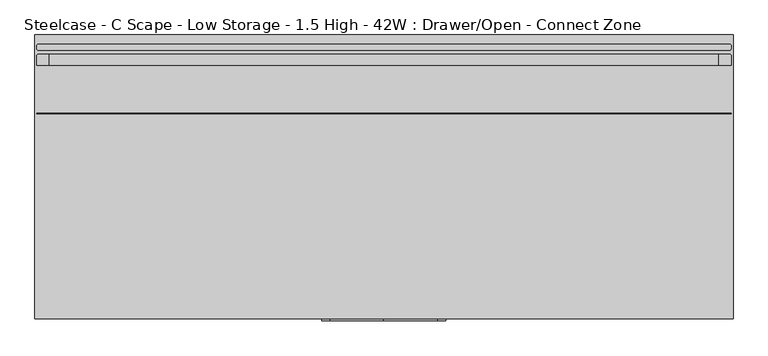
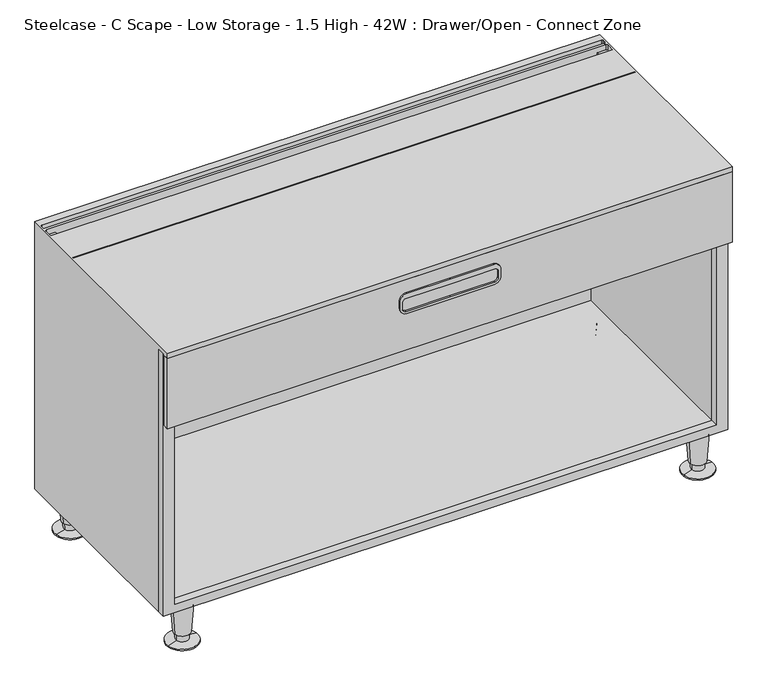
"""IFC4 building model written with IfcOpenShell, lengths in millimetres: furniture geometry, Steelcase - C Scape - Low Storage - 1.5 High - 42W : Drawer/Open - Connect Zone."""

from ifc_helpers import new_model, si_unit, point, frame, frame_2d, origin, place, context, project, spatial, polyline, circle_curve, trimmed, segment, composite_curve, outline, extrude, source, transform, mapped, element, save
from ifc_brep_helpers import plane_surface, cylinder_surface, revolved_surface, advanced_brep


def steelcase_c_scape_low_storage_1_5_high_42w_drawer_open_a7f49f14(model_context):
    return source(origin(), model_context, "Body", "SolidModel", [
        extrude(outline(polyline([(599.44, 532.2710512), (599.44, 0.0), (76.1999955, 0.0), (76.1999955, 1065.53), (599.44, 1065.53), (599.44, 532.2710512)]), holes=[polyline([(92.7100024, 1043.5617285), (92.7100024, 21.3382324), (582.93, 21.3382324), (582.93, 1043.5617285), (92.7100024, 1043.5617285)])]), frame((0.0, -419.3484735, 0.0), z_axis=(0.0, 1.0, 0.0), x_axis=(0.0, 0.0, 1.0)), (0.0, 0.0, 1.0), 14.9862946),
        extrude(outline(composite_curve([segment(trimmed(circle_curve(frame_2d((560.7050073, 450.2147442)), 12.7), [point((573.4050073, 450.2147442))], [point((560.7050073, 437.5147442))], False, "CARTESIAN"), True, "CONTINUOUS"), segment(polyline([(560.7050073, 437.5147442), (546.1000363, 437.5147442)]), True, "CONTINUOUS"), segment(trimmed(circle_curve(frame_2d((546.1000363, 450.2147442)), 12.7), [point((546.1000363, 437.5147442))], [point((533.4000363, 450.2147442))], False, "CARTESIAN"), True, "CONTINUOUS"), segment(polyline([(533.4000363, 450.2147442), (533.4000363, 532.4475), (533.4000363, 614.6802558)]), True, "CONTINUOUS"), segment(trimmed(circle_curve(frame_2d((546.1000363, 614.6802558)), 12.7), [point((533.4000363, 614.6802558))], [point((546.1000363, 627.3802558))], False, "CARTESIAN"), True, "CONTINUOUS"), segment(polyline([(546.1000363, 627.3802558), (560.7050073, 627.3802558)]), True, "CONTINUOUS"), segment(trimmed(circle_curve(frame_2d((560.7050073, 614.6802558)), 12.7), [point((560.7050073, 627.3802558))], [point((573.4050073, 614.6802558))], False, "CARTESIAN"), True, "CONTINUOUS"), segment(polyline([(573.4050073, 614.6802558), (573.4050073, 532.4475), (573.4050073, 450.2147442)]), True, "CONTINUOUS")], self_intersect=False), holes=[composite_curve([segment(trimmed(circle_curve(frame_2d((557.2760257, 448.6923565)), 6.35), [point((557.2760257, 442.3423565))], [point((563.6260257, 448.6923565))], True, "CARTESIAN"), True, "CONTINUOUS"), segment(polyline([(563.6260257, 448.6923565), (563.6260257, 532.4475), (563.6260257, 616.2026435)]), True, "CONTINUOUS"), segment(trimmed(circle_curve(frame_2d((557.2760257, 616.2026435)), 6.35), [point((563.6260257, 616.2026435))], [point((557.2760257, 622.5526435))], True, "CARTESIAN"), True, "CONTINUOUS"), segment(polyline([(557.2760257, 622.5526435), (544.5760136, 622.5526435)]), True, "CONTINUOUS"), segment(trimmed(circle_curve(frame_2d((544.5760136, 616.2026435)), 6.35), [point((544.5760136, 622.5526435))], [point((538.2260136, 616.2026435))], True, "CARTESIAN"), True, "CONTINUOUS"), segment(polyline([(538.2260136, 616.2026435), (538.2260136, 532.4475), (538.2260136, 448.6923565)]), True, "CONTINUOUS"), segment(trimmed(circle_curve(frame_2d((544.5760136, 448.6923565)), 6.35), [point((538.2260136, 448.6923565))], [point((544.5760136, 442.3423565))], True, "CARTESIAN"), True, "CONTINUOUS"), segment(polyline([(544.5760136, 442.3423565), (557.2760257, 442.3423565)]), True, "CONTINUOUS")], self_intersect=False)]), frame((0.0, -436.118, 0.0), z_axis=(0.0, 1.0, 0.0), x_axis=(0.0, 0.0, 1.0)), (0.0, 0.0, 1.0), 3.048),
        advanced_brep(
        [(1038.2598695, -31.5218435, 76.2), (1000.5981305, -37.2840847, 76.2), (1019.429, -34.4029641, 76.2), (1034.3095214, -32.1262463, 19.05), (1004.5484786, -36.6796819, 19.05), (1031.8799345, -32.4979728, 19.05), (1006.9780655, -36.3079555, 19.05), (1031.191165, -32.6033544, 5.7545598), (1007.666835, -36.2025738, 5.7545598), (1048.5400485, -29.9489775, 2.5119506), (990.3179515, -38.8569507, 2.5119506), (1048.5400485, -29.9489775, 0.0), (990.3179515, -38.8569507, 0.0), (1019.429, -34.4029641, 0.0)],
        [
            (0, 1, circle_curve(frame((1019.429, -34.4029641, 76.2), z_axis=(0.0, 0.0, 1.0), x_axis=(0.0, -1.0, 0.0)), 19.05)),
            (1, 2),
            (2, 0),
            (1, 0, circle_curve(frame((1019.429, -34.4029641, 76.2), z_axis=(0.0, 0.0, 1.0), x_axis=(0.0, -1.0, 0.0)), 19.05)),
            (3, 4, circle_curve(frame((1019.429, -34.4029641, 19.05), z_axis=(0.0, 0.0, 1.0), x_axis=(0.0, -1.0, 0.0)), 15.0536827)),
            (4, 1),
            (0, 3),
            (4, 3, circle_curve(frame((1019.429, -34.4029641, 19.05), z_axis=(0.0, 0.0, 1.0), x_axis=(0.0, -1.0, 0.0)), 15.0536827)),
            (5, 6, circle_curve(frame((1019.429, -34.4029641, 19.05), z_axis=(0.0, 0.0, 1.0), x_axis=(0.0, -1.0, 0.0)), 12.5958232)),
            (6, 4),
            (3, 5),
            (6, 5, circle_curve(frame((1019.429, -34.4029641, 19.05), z_axis=(0.0, 0.0, 1.0), x_axis=(0.0, -1.0, 0.0)), 12.5958232)),
            (7, 8, circle_curve(frame((1019.429, -34.4029641, 5.7545598), z_axis=(0.0, 0.0, 1.0), x_axis=(0.0, -1.0, 0.0)), 11.8990387)),
            (8, 6),
            (5, 7),
            (8, 7, circle_curve(frame((1019.429, -34.4029641, 5.7545598), z_axis=(0.0, 0.0, 1.0), x_axis=(0.0, -1.0, 0.0)), 11.8990387)),
            (9, 10, circle_curve(frame((1019.429, -34.4029641, 2.5119506), z_axis=(0.0, 0.0, 1.0), x_axis=(0.0, -1.0, 0.0)), 29.4498071)),
            (10, 8),
            (7, 9),
            (10, 9, circle_curve(frame((1019.429, -34.4029641, 2.5119506), z_axis=(0.0, 0.0, 1.0), x_axis=(0.0, -1.0, 0.0)), 29.4498071)),
            (11, 12, circle_curve(frame((1019.429, -34.4029641, 0.0), z_axis=(0.0, 0.0, 1.0), x_axis=(0.0, -1.0, 0.0)), 29.4498071)),
            (12, 10),
            (9, 11),
            (12, 11, circle_curve(frame((1019.429, -34.4029641, 0.0), z_axis=(0.0, 0.0, 1.0), x_axis=(0.0, -1.0, 0.0)), 29.4498071)),
            (13, 12),
            (11, 13),
        ],
        [
            plane_surface(frame((1019.429, -34.4029641, 76.2), z_axis=(0.0, 0.0, 1.0), x_axis=(0.0, -1.0, 0.0))),
            revolved_surface(polyline([(1019.429, -53.4529641, 76.2), (1019.429, -49.4566468, 19.05)]), (1019.429, -34.4029641, 25.4), (0.0, 0.0, -1.0)),
            plane_surface(frame((1019.429, -34.4029641, 19.05), z_axis=(0.0, 0.0, -1.0), x_axis=(0.0, -1.0, 0.0))),
            revolved_surface(polyline([(1019.429, -46.9987873, 19.05), (1019.429, -46.3020028, 5.7545598)]), (1019.429, -34.4029641, 25.4), (0.0, 0.0, -1.0)),
            revolved_surface(polyline([(1019.429, -46.3020028, 5.7545598), (1019.429, -63.8527712, 2.5119506)]), (1019.429, -34.4029641, 25.4), (0.0, 0.0, -1.0)),
            cylinder_surface(frame((1019.429, -34.4029641, 25.4), z_axis=(0.0, 0.0, -1.0), x_axis=(0.0, -1.0, 0.0)), 29.4498071),
            plane_surface(frame((1019.429, -34.4029641, 0.0), z_axis=(0.0, 0.0, -1.0), x_axis=(0.0, -1.0, 0.0))),
        ],
        [
            (0, [[1, 2, 3]]),
            (0, [[4, -3, -2]]),
            (1, [[5, 6, -1, 7]]),
            (1, [[8, -7, -4, -6]]),
            (2, [[9, 10, -5, 11]]),
            (2, [[12, -11, -8, -10]]),
            (3, [[13, 14, -9, 15]]),
            (3, [[16, -15, -12, -14]]),
            (4, [[17, 18, -13, 19]]),
            (4, [[20, -19, -16, -18]]),
            (5, [[21, 22, -17, 23]]),
            (5, [[24, -23, -20, -22]]),
            (6, [[25, -21, 26]]),
            (6, [[-26, -24, -25]]),
        ],
    ),
        advanced_brep(
        [(1038.2598695, -397.1702762, 76.2), (1000.5981305, -402.9325174, 76.2), (1019.429, -400.0513968, 76.2), (1034.3095214, -397.774679, 19.05), (1004.5484786, -402.3281146, 19.05), (1031.8799345, -398.1464055, 19.05), (1006.9780655, -401.9563882, 19.05), (1031.191165, -398.2517871, 5.7545598), (1007.666835, -401.8510065, 5.7545598), (1048.5400485, -395.5974102, 2.5119506), (990.3179515, -404.5053834, 2.5119506), (1048.5400485, -395.5974102, 0.0), (990.3179515, -404.5053834, 0.0), (1019.429, -400.0513968, 0.0)],
        [
            (0, 1, circle_curve(frame((1019.429, -400.0513968, 76.2), z_axis=(0.0, 0.0, 1.0), x_axis=(0.0, -1.0, 0.0)), 19.05)),
            (1, 2),
            (2, 0),
            (1, 0, circle_curve(frame((1019.429, -400.0513968, 76.2), z_axis=(0.0, 0.0, 1.0), x_axis=(0.0, -1.0, 0.0)), 19.05)),
            (3, 4, circle_curve(frame((1019.429, -400.0513968, 19.05), z_axis=(0.0, 0.0, 1.0), x_axis=(0.0, -1.0, 0.0)), 15.0536827)),
            (4, 1),
            (0, 3),
            (4, 3, circle_curve(frame((1019.429, -400.0513968, 19.05), z_axis=(0.0, 0.0, 1.0), x_axis=(0.0, -1.0, 0.0)), 15.0536827)),
            (5, 6, circle_curve(frame((1019.429, -400.0513968, 19.05), z_axis=(0.0, 0.0, 1.0), x_axis=(0.0, -1.0, 0.0)), 12.5958232)),
            (6, 4),
            (3, 5),
            (6, 5, circle_curve(frame((1019.429, -400.0513968, 19.05), z_axis=(0.0, 0.0, 1.0), x_axis=(0.0, -1.0, 0.0)), 12.5958232)),
            (7, 8, circle_curve(frame((1019.429, -400.0513968, 5.7545598), z_axis=(0.0, 0.0, 1.0), x_axis=(0.0, -1.0, 0.0)), 11.8990387)),
            (8, 6),
            (5, 7),
            (8, 7, circle_curve(frame((1019.429, -400.0513968, 5.7545598), z_axis=(0.0, 0.0, 1.0), x_axis=(0.0, -1.0, 0.0)), 11.8990387)),
            (9, 10, circle_curve(frame((1019.429, -400.0513968, 2.5119506), z_axis=(0.0, 0.0, 1.0), x_axis=(0.0, -1.0, 0.0)), 29.4498071)),
            (10, 8),
            (7, 9),
            (10, 9, circle_curve(frame((1019.429, -400.0513968, 2.5119506), z_axis=(0.0, 0.0, 1.0), x_axis=(0.0, -1.0, 0.0)), 29.4498071)),
            (11, 12, circle_curve(frame((1019.429, -400.0513968, 0.0), z_axis=(0.0, 0.0, 1.0), x_axis=(0.0, -1.0, 0.0)), 29.4498071)),
            (12, 10),
            (9, 11),
            (12, 11, circle_curve(frame((1019.429, -400.0513968, 0.0), z_axis=(0.0, 0.0, 1.0), x_axis=(0.0, -1.0, 0.0)), 29.4498071)),
            (13, 12),
            (11, 13),
        ],
        [
            plane_surface(frame((1019.429, -400.0513968, 76.2), z_axis=(0.0, 0.0, 1.0), x_axis=(0.0, -1.0, 0.0))),
            revolved_surface(polyline([(1019.429, -419.1013968, 76.2), (1019.429, -415.1050795, 19.05)]), (1019.429, -400.0513968, 25.4), (0.0, 0.0, -1.0)),
            plane_surface(frame((1019.429, -400.0513968, 19.05), z_axis=(0.0, 0.0, -1.0), x_axis=(0.0, -1.0, 0.0))),
            revolved_surface(polyline([(1019.429, -412.64722, 19.05), (1019.429, -411.9504355, 5.7545598)]), (1019.429, -400.0513968, 25.4), (0.0, 0.0, -1.0)),
            revolved_surface(polyline([(1019.429, -411.9504355, 5.7545598), (1019.429, -429.5012039, 2.5119506)]), (1019.429, -400.0513968, 25.4), (0.0, 0.0, -1.0)),
            cylinder_surface(frame((1019.429, -400.0513968, 25.4), z_axis=(0.0, 0.0, -1.0), x_axis=(0.0, -1.0, 0.0)), 29.4498071),
            plane_surface(frame((1019.429, -400.0513968, 0.0), z_axis=(0.0, 0.0, -1.0), x_axis=(0.0, -1.0, 0.0))),
        ],
        [
            (0, [[1, 2, 3]]),
            (0, [[4, -3, -2]]),
            (1, [[5, 6, -1, 7]]),
            (1, [[8, -7, -4, -6]]),
            (2, [[9, 10, -5, 11]]),
            (2, [[12, -11, -8, -10]]),
            (3, [[13, 14, -9, 15]]),
            (3, [[16, -15, -12, -14]]),
            (4, [[17, 18, -13, 19]]),
            (4, [[20, -19, -16, -18]]),
            (5, [[21, 22, -17, 23]]),
            (5, [[24, -23, -20, -22]]),
            (6, [[25, -21, 26]]),
            (6, [[-26, -24, -25]]),
        ],
    ),
        advanced_brep(
        [(65.5422821, -397.1702762, 76.2), (27.8805432, -402.9325174, 76.2), (46.7114126, -400.0513968, 76.2), (61.5919341, -397.774679, 19.05), (31.8308912, -402.3281146, 19.05), (59.1623471, -398.1464055, 19.05), (34.2604781, -401.9563882, 19.05), (58.4735776, -398.2517871, 5.7545598), (34.9492476, -401.8510065, 5.7545598), (75.8224611, -395.5974102, 2.5119506), (17.6003641, -404.5053834, 2.5119506), (75.8224611, -395.5974102, 0.0), (17.6003641, -404.5053834, 0.0), (46.7114126, -400.0513968, 0.0)],
        [
            (0, 1, circle_curve(frame((46.7114126, -400.0513968, 76.2), z_axis=(0.0, 0.0, 1.0), x_axis=(0.0, -1.0, 0.0)), 19.05)),
            (1, 2),
            (2, 0),
            (1, 0, circle_curve(frame((46.7114126, -400.0513968, 76.2), z_axis=(0.0, 0.0, 1.0), x_axis=(0.0, -1.0, 0.0)), 19.05)),
            (3, 4, circle_curve(frame((46.7114126, -400.0513968, 19.05), z_axis=(0.0, 0.0, 1.0), x_axis=(0.0, -1.0, 0.0)), 15.0536827)),
            (4, 1),
            (0, 3),
            (4, 3, circle_curve(frame((46.7114126, -400.0513968, 19.05), z_axis=(0.0, 0.0, 1.0), x_axis=(0.0, -1.0, 0.0)), 15.0536827)),
            (5, 6, circle_curve(frame((46.7114126, -400.0513968, 19.05), z_axis=(0.0, 0.0, 1.0), x_axis=(0.0, -1.0, 0.0)), 12.5958232)),
            (6, 4),
            (3, 5),
            (6, 5, circle_curve(frame((46.7114126, -400.0513968, 19.05), z_axis=(0.0, 0.0, 1.0), x_axis=(0.0, -1.0, 0.0)), 12.5958232)),
            (7, 8, circle_curve(frame((46.7114126, -400.0513968, 5.7545598), z_axis=(0.0, 0.0, 1.0), x_axis=(0.0, -1.0, 0.0)), 11.8990387)),
            (8, 6),
            (5, 7),
            (8, 7, circle_curve(frame((46.7114126, -400.0513968, 5.7545598), z_axis=(0.0, 0.0, 1.0), x_axis=(0.0, -1.0, 0.0)), 11.8990387)),
            (9, 10, circle_curve(frame((46.7114126, -400.0513968, 2.5119506), z_axis=(0.0, 0.0, 1.0), x_axis=(0.0, -1.0, 0.0)), 29.4498071)),
            (10, 8),
            (7, 9),
            (10, 9, circle_curve(frame((46.7114126, -400.0513968, 2.5119506), z_axis=(0.0, 0.0, 1.0), x_axis=(0.0, -1.0, 0.0)), 29.4498071)),
            (11, 12, circle_curve(frame((46.7114126, -400.0513968, 0.0), z_axis=(0.0, 0.0, 1.0), x_axis=(0.0, -1.0, 0.0)), 29.4498071)),
            (12, 10),
            (9, 11),
            (12, 11, circle_curve(frame((46.7114126, -400.0513968, 0.0), z_axis=(0.0, 0.0, 1.0), x_axis=(0.0, -1.0, 0.0)), 29.4498071)),
            (13, 12),
            (11, 13),
        ],
        [
            plane_surface(frame((46.7114126, -400.0513968, 76.2), z_axis=(0.0, 0.0, 1.0), x_axis=(0.0, -1.0, 0.0))),
            revolved_surface(polyline([(46.7114126, -419.1013968, 76.2), (46.7114126, -415.1050795, 19.05)]), (46.7114126, -400.0513968, 25.4), (0.0, 0.0, -1.0)),
            plane_surface(frame((46.7114126, -400.0513968, 19.05), z_axis=(0.0, 0.0, -1.0), x_axis=(0.0, -1.0, 0.0))),
            revolved_surface(polyline([(46.7114126, -412.64722, 19.05), (46.7114126, -411.9504355, 5.7545598)]), (46.7114126, -400.0513968, 25.4), (0.0, 0.0, -1.0)),
            revolved_surface(polyline([(46.7114126, -411.9504355, 5.7545598), (46.7114126, -429.5012039, 2.5119506)]), (46.7114126, -400.0513968, 25.4), (0.0, 0.0, -1.0)),
            cylinder_surface(frame((46.7114126, -400.0513968, 25.4), z_axis=(0.0, 0.0, -1.0), x_axis=(0.0, -1.0, 0.0)), 29.4498071),
            plane_surface(frame((46.7114126, -400.0513968, 0.0), z_axis=(0.0, 0.0, -1.0), x_axis=(0.0, -1.0, 0.0))),
        ],
        [
            (0, [[1, 2, 3]]),
            (0, [[4, -3, -2]]),
            (1, [[5, 6, -1, 7]]),
            (1, [[8, -7, -4, -6]]),
            (2, [[9, 10, -5, 11]]),
            (2, [[12, -11, -8, -10]]),
            (3, [[13, 14, -9, 15]]),
            (3, [[16, -15, -12, -14]]),
            (4, [[17, 18, -13, 19]]),
            (4, [[20, -19, -16, -18]]),
            (5, [[21, 22, -17, 23]]),
            (5, [[24, -23, -20, -22]]),
            (6, [[25, -21, 26]]),
            (6, [[-26, -24, -25]]),
        ],
    ),
        advanced_brep(
        [(65.5422821, -31.5218435, 76.2), (27.8805432, -37.2840847, 76.2), (46.7114126, -34.4029641, 76.2), (61.5919341, -32.1262463, 19.05), (31.8308912, -36.6796819, 19.05), (59.1623471, -32.4979728, 19.05), (34.2604781, -36.3079555, 19.05), (58.4735776, -32.6033544, 5.7545598), (34.9492476, -36.2025738, 5.7545598), (75.8224611, -29.9489775, 2.5119506), (17.6003641, -38.8569507, 2.5119506), (75.8224611, -29.9489775, 0.0), (17.6003641, -38.8569507, 0.0), (46.7114126, -34.4029641, 0.0)],
        [
            (0, 1, circle_curve(frame((46.7114126, -34.4029641, 76.2), z_axis=(0.0, 0.0, 1.0), x_axis=(0.0, -1.0, 0.0)), 19.05)),
            (1, 2),
            (2, 0),
            (1, 0, circle_curve(frame((46.7114126, -34.4029641, 76.2), z_axis=(0.0, 0.0, 1.0), x_axis=(0.0, -1.0, 0.0)), 19.05)),
            (3, 4, circle_curve(frame((46.7114126, -34.4029641, 19.05), z_axis=(0.0, 0.0, 1.0), x_axis=(0.0, -1.0, 0.0)), 15.0536827)),
            (4, 1),
            (0, 3),
            (4, 3, circle_curve(frame((46.7114126, -34.4029641, 19.05), z_axis=(0.0, 0.0, 1.0), x_axis=(0.0, -1.0, 0.0)), 15.0536827)),
            (5, 6, circle_curve(frame((46.7114126, -34.4029641, 19.05), z_axis=(0.0, 0.0, 1.0), x_axis=(0.0, -1.0, 0.0)), 12.5958232)),
            (6, 4),
            (3, 5),
            (6, 5, circle_curve(frame((46.7114126, -34.4029641, 19.05), z_axis=(0.0, 0.0, 1.0), x_axis=(0.0, -1.0, 0.0)), 12.5958232)),
            (7, 8, circle_curve(frame((46.7114126, -34.4029641, 5.7545598), z_axis=(0.0, 0.0, 1.0), x_axis=(0.0, -1.0, 0.0)), 11.8990387)),
            (8, 6),
            (5, 7),
            (8, 7, circle_curve(frame((46.7114126, -34.4029641, 5.7545598), z_axis=(0.0, 0.0, 1.0), x_axis=(0.0, -1.0, 0.0)), 11.8990387)),
            (9, 10, circle_curve(frame((46.7114126, -34.4029641, 2.5119506), z_axis=(0.0, 0.0, 1.0), x_axis=(0.0, -1.0, 0.0)), 29.4498071)),
            (10, 8),
            (7, 9),
            (10, 9, circle_curve(frame((46.7114126, -34.4029641, 2.5119506), z_axis=(0.0, 0.0, 1.0), x_axis=(0.0, -1.0, 0.0)), 29.4498071)),
            (11, 12, circle_curve(frame((46.7114126, -34.4029641, 0.0), z_axis=(0.0, 0.0, 1.0), x_axis=(0.0, -1.0, 0.0)), 29.4498071)),
            (12, 10),
            (9, 11),
            (12, 11, circle_curve(frame((46.7114126, -34.4029641, 0.0), z_axis=(0.0, 0.0, 1.0), x_axis=(0.0, -1.0, 0.0)), 29.4498071)),
            (13, 12),
            (11, 13),
        ],
        [
            plane_surface(frame((46.7114126, -34.4029641, 76.2), z_axis=(0.0, 0.0, 1.0), x_axis=(0.0, -1.0, 0.0))),
            revolved_surface(polyline([(46.7114126, -53.4529641, 76.2), (46.7114126, -49.4566468, 19.05)]), (46.7114126, -34.4029641, 25.4), (0.0, 0.0, -1.0)),
            plane_surface(frame((46.7114126, -34.4029641, 19.05), z_axis=(0.0, 0.0, -1.0), x_axis=(0.0, -1.0, 0.0))),
            revolved_surface(polyline([(46.7114126, -46.9987873, 19.05), (46.7114126, -46.3020028, 5.7545598)]), (46.7114126, -34.4029641, 25.4), (0.0, 0.0, -1.0)),
            revolved_surface(polyline([(46.7114126, -46.3020028, 5.7545598), (46.7114126, -63.8527712, 2.5119506)]), (46.7114126, -34.4029641, 25.4), (0.0, 0.0, -1.0)),
            cylinder_surface(frame((46.7114126, -34.4029641, 25.4), z_axis=(0.0, 0.0, -1.0), x_axis=(0.0, -1.0, 0.0)), 29.4498071),
            plane_surface(frame((46.7114126, -34.4029641, 0.0), z_axis=(0.0, 0.0, -1.0), x_axis=(0.0, -1.0, 0.0))),
        ],
        [
            (0, [[1, 2, 3]]),
            (0, [[4, -3, -2]]),
            (1, [[5, 6, -1, 7]]),
            (1, [[8, -7, -4, -6]]),
            (2, [[9, 10, -5, 11]]),
            (2, [[12, -11, -8, -10]]),
            (3, [[13, 14, -9, 15]]),
            (3, [[16, -15, -12, -14]]),
            (4, [[17, 18, -13, 19]]),
            (4, [[20, -19, -16, -18]]),
            (5, [[21, 22, -17, 23]]),
            (5, [[24, -23, -20, -22]]),
            (6, [[25, -21, 26]]),
            (6, [[-26, -24, -25]]),
        ],
    ),
        advanced_brep(
        [(1062.7272317, -120.6444193, 609.6), (1062.7272317, -119.3775195, 609.6), (1062.7272317, -119.3775195, 599.44), (1062.7272317, -120.6444193, 599.44), (1062.7272317, -46.4703418, 609.6), (1062.7272317, -32.274699, 609.6), (1062.7272317, -32.274699, 599.44), (1062.7272317, -46.4703418, 599.44), (1062.7272317, -20.3138654, 609.6), (1062.7272317, -17.0388453, 609.6), (1062.7272317, -17.0388453, 599.44), (1062.7272317, -20.3138654, 599.44), (1065.53, 0.0055807, 609.6), (1065.53, -433.07, 609.6), (1065.53, -433.07, 599.44), (1065.53, -404.362179, 599.44), (1065.53, -404.362179, 76.2), (1065.53, 0.0055807, 76.2), (0.0, -433.07, 609.6), (-0.012551, 0.0055807, 609.6), (1060.0308823, -29.5783496, 609.6), (2.7826272, -46.4703418, 609.6), (2.7826272, -32.0458511, 609.6), (5.2501287, -29.5783496, 609.6), (1059.7507358, -23.2903613, 609.6), (5.5670648, -23.2903613, 609.6), (2.7826272, -20.5059237, 609.6), (2.7826272, -17.0388453, 609.6), (5.4794022, -14.3420703, 609.6), (1060.0304567, -14.3420703, 609.6), (2.7826272, -119.3775195, 609.6), (2.7826272, -120.6444193, 609.6), (0.0, 0.0055807, 76.2), (648.0775189, 0.0055807, 466.2677968), (416.8174811, 0.0055807, 466.2677968), (416.8174811, 0.0055807, 432.6382043), (532.4475, 0.0055807, 432.6382043), (648.0775189, 0.0055807, 432.6382043), (648.0775189, -9.5194193, 466.2677968), (416.8174811, -9.5194193, 466.2677968), (648.0775189, -9.5194193, 435.8005068), (416.8174811, -9.5194193, 435.8005068), (5.2501287, -29.5783496, 599.44), (21.3382324, -29.5783496, 599.44), (21.3382324, -29.5783496, 458.7875121), (1043.5617285, -29.5783496, 458.7875121), (1043.5617285, -29.5783496, 599.44), (1060.0308823, -29.5783496, 599.44), (1043.5617285, -119.3775195, 599.44), (21.3382324, -119.3775195, 599.44), (21.3382324, -46.4703418, 599.44), (1043.5617285, -46.4703418, 599.44), (1059.7507358, -23.2903613, 599.44), (5.5670648, -23.2903613, 599.44), (2.7826272, -20.5059237, 599.44), (2.7826272, -32.0458511, 599.44), (2.7826272, -46.4703418, 599.44), (2.7826272, -119.3775195, 599.44), (5.4794022, -14.3420703, 599.44), (1060.0304567, -14.3420703, 599.44), (2.7826272, -17.0388453, 599.44), (21.3382324, -120.6444193, 599.44), (2.7826272, -120.6444193, 599.44), (1043.5617285, -120.6444193, 599.44), (21.3382324, -404.362179, 92.7100024), (1043.5617285, -404.362179, 92.7100024), (1043.5617285, -9.5194193, 92.7100024), (21.3382324, -9.5194193, 92.7100024), (0.0, -404.362179, 76.2), (21.3382324, -404.362179, 458.7875121), (21.3382324, -404.362179, 599.44), (0.0, -404.362179, 599.44), (1043.5617285, -404.362179, 599.44), (1043.5617285, -404.362179, 458.7875121), (21.3382324, -404.362179, 435.8005068), (1043.5617285, -404.362179, 435.8005068), (0.0, -433.07, 599.44), (21.3382324, -126.9863574, 599.44), (1043.5617285, -126.9863574, 599.44), (21.3382324, -126.9863574, 458.7875121), (1043.5617285, -126.9863574, 458.7875121), (1043.5617285, -120.6444193, 458.7875121), (21.3382324, -120.6444193, 458.7875121), (21.3382324, -9.5194193, 435.8005068), (1043.5617285, -9.5194193, 435.8005068), (648.0775189, -9.5194193, 432.6382043), (532.4475, -9.5194193, 432.6382043), (416.8174811, -9.5194193, 432.6382043)],
        [
            (0, 1),
            (1, 2),
            (2, 3),
            (3, 0),
            (4, 5),
            (5, 6),
            (6, 7),
            (7, 4),
            (8, 9),
            (9, 10),
            (10, 11),
            (11, 8),
            (12, 13),
            (13, 14),
            (14, 15),
            (15, 16),
            (16, 17),
            (17, 12),
            (18, 13),
            (12, 19),
            (19, 18),
            (20, 5, circle_curve(frame((1060.0308823, -32.274699, 609.6), z_axis=(0.0, 0.0, -1.0), x_axis=(1.0, 0.0, 0.0)), 2.6963494)),
            (4, 21),
            (21, 22),
            (22, 23, circle_curve(frame((5.2501287, -32.0458511, 609.6), z_axis=(0.0, 0.0, -1.0), x_axis=(1.0, 0.0, 0.0)), 2.4675015)),
            (23, 20),
            (8, 24, circle_curve(frame((1059.7507358, -20.3138654, 609.6), z_axis=(0.0, 0.0, -1.0), x_axis=(1.0, 0.0, 0.0)), 2.9764959)),
            (24, 25),
            (25, 26, circle_curve(frame((5.5670648, -20.5059237, 609.6), z_axis=(0.0, 0.0, -1.0), x_axis=(1.0, 0.0, 0.0)), 2.7844376)),
            (26, 27),
            (27, 28, circle_curve(frame((5.4794022, -17.0388453, 609.6), z_axis=(0.0, 0.0, -1.0), x_axis=(1.0, 0.0, 0.0)), 2.696775)),
            (28, 29),
            (29, 9, circle_curve(frame((1060.0304567, -17.0388453, 609.6), z_axis=(0.0, 0.0, -1.0), x_axis=(1.0, 0.0, 0.0)), 2.696775)),
            (30, 1),
            (0, 31),
            (31, 30),
            (17, 32),
            (32, 19),
            (33, 34),
            (34, 35),
            (35, 36),
            (36, 37),
            (37, 33),
            (33, 38),
            (38, 39),
            (39, 34),
            (38, 40),
            (40, 41),
            (41, 39),
            (23, 42),
            (42, 43),
            (43, 44),
            (44, 45),
            (45, 46),
            (46, 47),
            (47, 20),
            (48, 49),
            (49, 50),
            (50, 51),
            (51, 48),
            (47, 6, circle_curve(frame((1060.0308823, -32.274699, 599.44), z_axis=(0.0, 0.0, -1.0), x_axis=(1.0, 0.0, 0.0)), 2.6963494)),
            (11, 52, circle_curve(frame((1059.7507358, -20.3138654, 599.44), z_axis=(0.0, 0.0, -1.0), x_axis=(1.0, 0.0, 0.0)), 2.9764959)),
            (52, 24),
            (52, 53),
            (53, 25),
            (53, 54, circle_curve(frame((5.5670648, -20.5059237, 599.44), z_axis=(0.0, 0.0, -1.0), x_axis=(1.0, 0.0, 0.0)), 2.7844376)),
            (54, 26),
            (22, 55),
            (55, 42, circle_curve(frame((5.2501287, -32.0458511, 599.44), z_axis=(0.0, 0.0, -1.0), x_axis=(1.0, 0.0, 0.0)), 2.4675015)),
            (7, 51),
            (50, 56),
            (56, 21),
            (30, 57),
            (57, 49),
            (48, 2),
            (28, 58),
            (58, 59),
            (59, 29),
            (59, 10, circle_curve(frame((1060.0304567, -17.0388453, 599.44), z_axis=(0.0, 0.0, -1.0), x_axis=(1.0, 0.0, 0.0)), 2.696775)),
            (27, 60),
            (60, 58, circle_curve(frame((5.4794022, -17.0388453, 599.44), z_axis=(0.0, 0.0, -1.0), x_axis=(1.0, 0.0, 0.0)), 2.696775)),
            (61, 49),
            (57, 62),
            (62, 61),
            (48, 63),
            (63, 3),
            (60, 54),
            (50, 43),
            (55, 56),
            (46, 51),
            (64, 65),
            (65, 66),
            (66, 67),
            (67, 64),
            (16, 68),
            (68, 32),
            (69, 70),
            (70, 71),
            (71, 68),
            (15, 72),
            (72, 73),
            (73, 69),
            (64, 74),
            (74, 75),
            (75, 65),
            (18, 76),
            (76, 14),
            (76, 71),
            (70, 77),
            (77, 78),
            (78, 72),
            (77, 79),
            (79, 80),
            (80, 78),
            (63, 81),
            (81, 82),
            (82, 61),
            (62, 31),
            (44, 82),
            (81, 45),
            (79, 69),
            (73, 80),
            (74, 83),
            (83, 41),
            (40, 84),
            (84, 75),
            (67, 83),
            (84, 66),
            (85, 86),
            (86, 87),
            (87, 41),
            (40, 85),
            (37, 85),
            (36, 86),
            (35, 87),
        ],
        [
            plane_surface(frame((1062.7272317, -120.6444193, 609.6), z_axis=(-1.0, 0.0, 0.0), x_axis=(0.0, 0.0, 1.0))),
            plane_surface(frame((1065.53, -120.6444193, 609.6), z_axis=(1.0, 0.0, 0.0), x_axis=(0.0, 0.0, -1.0))),
            plane_surface(frame((1062.7272317, -120.6444193, 609.6), z_axis=(0.0, 0.0, 1.0), x_axis=(1.0, 0.0, 0.0))),
            plane_surface(frame((1062.7272317, 0.0055807, 609.6), z_axis=(0.0, 1.0, 0.0), x_axis=(1.0, 0.0, 0.0))),
            plane_surface(frame((1062.7272317, 0.0055807, 466.2677968), z_axis=(0.0, 0.0, -1.0), x_axis=(1.0, 0.0, 0.0))),
            plane_surface(frame((1062.7272317, -9.5194193, 466.2677968), z_axis=(0.0, 1.0, 0.0), x_axis=(1.0, 0.0, 0.0))),
            plane_surface(frame((1062.7272317, -29.5783496, 458.7875121), z_axis=(0.0, -1.0, 0.0), x_axis=(1.0, 0.0, 0.0))),
            plane_surface(frame((1062.7272317, -29.5783496, 599.44), z_axis=(0.0, 0.0, -1.0), x_axis=(1.0, 0.0, 0.0))),
            revolved_surface(polyline([(1062.7272317, -32.274699, 599.44), (1062.7272317, -32.274699, 609.6)]), (1060.0308823, -32.274699, 599.44), (0.0, 0.0, -1.0)),
            revolved_surface(polyline([(1062.7272317, -20.3138654, 599.44), (1062.7272317, -20.3138654, 609.6)]), (1059.7507358, -20.3138654, 599.44), (0.0, 0.0, -1.0)),
            plane_surface(frame((1059.7507358, -23.2903613, 609.6), z_axis=(0.0, 1.0, 0.0), x_axis=(0.0, 0.0, -1.0))),
            revolved_surface(polyline([(8.3515024, -20.5059237, 599.44), (8.3515024, -20.5059237, 609.6)]), (5.5670648, -20.5059237, 599.44), (0.0, 0.0, -1.0)),
            revolved_surface(polyline([(7.7176302, -32.0458511, 599.44), (7.7176302, -32.0458511, 609.6)]), (5.2501287, -32.0458511, 599.44), (0.0, 0.0, -1.0)),
            plane_surface(frame((1062.7272317, -46.4703418, 609.6), z_axis=(0.0, 1.0, 0.0), x_axis=(0.0, 0.0, -1.0))),
            plane_surface(frame((2.7826272, -119.3775195, 609.6), z_axis=(0.0, -1.0, 0.0), x_axis=(0.0, 0.0, -1.0))),
            plane_surface(frame((5.4794022, -14.3420703, 609.6), z_axis=(0.0, -1.0, 0.0), x_axis=(0.0, 0.0, -1.0))),
            revolved_surface(polyline([(1062.7272317, -17.0388453, 599.44), (1062.7272317, -17.0388453, 609.6)]), (1060.0304567, -17.0388453, 41.6295811), (0.0, 0.0, -1.0)),
            revolved_surface(polyline([(8.1761772, -17.0388453, 599.44), (8.1761772, -17.0388453, 609.6)]), (5.4794022, -17.0388453, 41.6295811), (0.0, 0.0, -1.0)),
            plane_surface(frame((1062.7272317, 0.0055807, 599.44), z_axis=(0.0, 0.0, 1.0), x_axis=(-1.0, 0.0, 0.0))),
            plane_surface(frame((0.0, 0.0, 92.7100024), z_axis=(0.0, 0.0, 1.0), x_axis=(-1.0, 0.0, 0.0))),
            plane_surface(frame((0.0, 0.0, 76.2), z_axis=(0.0, 0.0, -1.0), x_axis=(1.0, 0.0, 0.0))),
            plane_surface(frame((21.3382324, -404.362179, 92.7100024), z_axis=(0.0, -1.0, 0.0), x_axis=(0.0, 0.0, -1.0))),
            plane_surface(frame((1065.53, -433.07, 609.6), z_axis=(0.0, -1.0, 0.0), x_axis=(-1.0, 0.0, 0.0))),
            plane_surface(frame((1065.53, -433.07, 599.44), z_axis=(0.0, 0.0, -1.0), x_axis=(-1.0, 0.0, 0.0))),
            plane_surface(frame((1065.53, -126.9863574, 599.44), z_axis=(0.0, -1.0, 0.0), x_axis=(-1.0, 0.0, 0.0))),
            plane_surface(frame((1065.53, -120.6444193, 457.1999955), z_axis=(0.0, 1.0, 0.0), x_axis=(-1.0, 0.0, 0.0))),
            plane_surface(frame((0.0, -9.5194193, 458.7875121), z_axis=(0.0, 0.0, 1.0), x_axis=(-1.0, 0.0, 0.0))),
            plane_surface(frame((0.0, -9.5194193, 435.8005068), z_axis=(0.0, 0.0, -1.0), x_axis=(1.0, 0.0, 0.0))),
            plane_surface(frame((21.3382324, -404.362179, 599.44), z_axis=(1.0, 0.0, 0.0), x_axis=(0.0, 0.0, -1.0))),
            plane_surface(frame((1043.5617285, -9.5194193, 599.44), z_axis=(-1.0, 0.0, 0.0), x_axis=(0.0, 0.0, -1.0))),
            plane_surface(frame((2.7826272, -120.6444193, 599.44), z_axis=(1.0, 0.0, 0.0), x_axis=(0.0, 1.0, 0.0))),
            plane_surface(frame((648.0775189, -9.5194193, 459.9177968), z_axis=(0.0, -1.0, 0.0), x_axis=(0.0, 0.0, -1.0))),
            plane_surface(frame((648.0775189, -9.5194193, 466.2677968), z_axis=(-1.0, 0.0, 0.0), x_axis=(0.0, 1.0, 0.0))),
            plane_surface(frame((648.0775189, -9.5194193, 432.6382043), z_axis=(0.0, 0.0, 1.0), x_axis=(0.0, 1.0, 0.0))),
            plane_surface(frame((532.4475, -9.5194193, 432.6382043), z_axis=(0.0, 0.0, 1.0), x_axis=(0.0, 1.0, 0.0))),
            plane_surface(frame((416.8174811, -9.5194193, 432.6382043), z_axis=(1.0, 0.0, 0.0), x_axis=(0.0, 1.0, 0.0))),
            plane_surface(frame((0.0, -433.07, 609.6), z_axis=(-1.0, 0.0, 0.0), x_axis=(0.0, 1.0, 0.0))),
        ],
        [
            (0, [[1, 2, 3, 4]]),
            (0, [[5, 6, 7, 8]]),
            (0, [[9, 10, 11, 12]]),
            (1, [[13, 14, 15, 16, 17, 18]]),
            (2, [[19, -13, 20, 21], [22, -5, 23, 24, 25, 26], [27, 28, 29, 30, 31, 32, 33, -9], [34, -1, 35, 36]]),
            (3, [[-18, 37, 38, -20], [39, 40, 41, 42, 43]]),
            (4, [[-39, 44, 45, 46]]),
            (5, [[-45, 47, 48, 49]]),
            (6, [[-26, 50, 51, 52, 53, 54, 55, 56]]),
            (7, [[57, 58, 59, 60]]),
            (8, [[-22, -56, 61, -6]]),
            (9, [[-27, -12, 62, 63]]),
            (10, [[-28, -63, 64, 65]]),
            (11, [[-29, -65, 66, 67]]),
            (12, [[-25, 68, 69, -50]]),
            (13, [[-23, -8, 70, -59, 71, 72]]),
            (14, [[-34, 73, 74, -57, 75, -2]]),
            (15, [[-32, 76, 77, 78]]),
            (16, [[-33, -78, 79, -10]]),
            (17, [[-31, 80, 81, -76]]),
            (18, [[82, -74, 83, 84]]),
            (18, [[85, 86, -3, -75]]),
            (18, [[-11, -79, -77, -81, 87, -66, -64, -62]]),
            (18, [[88, -51, -69, 89, -71]]),
            (18, [[90, -70, -7, -61, -55]]),
            (19, [[91, 92, 93, 94]]),
            (20, [[-37, -17, 95, 96]]),
            (21, [[97, 98, 99, -95, -16, 100, 101, 102], [-91, 103, 104, 105]]),
            (22, [[-14, -19, 106, 107]]),
            (23, [[-107, 108, -98, 109, 110, 111, -100, -15]]),
            (24, [[-110, 112, 113, 114]]),
            (25, [[-4, -86, 115, 116, 117, -84, 118, -35]]),
            (26, [[-53, 119, -116, 120]]),
            (26, [[-113, 121, -102, 122]]),
            (27, [[-104, 123, 124, -48, 125, 126]]),
            (28, [[-103, -94, 127, -123]]),
            (28, [[-97, -121, -112, -109]]),
            (28, [[-88, -58, -82, -117, -119, -52]]),
            (29, [[-105, -126, 128, -92]]),
            (29, [[-101, -111, -114, -122]]),
            (29, [[-90, -54, -120, -115, -85, -60]]),
            (30, [[-24, -72, -89, -68]]),
            (30, [[-30, -67, -87, -80]]),
            (30, [[-36, -118, -83, -73]]),
            (31, [[129, 130, 131, -124, -127, -93, -128, -125, 132]]),
            (32, [[-43, 133, -132, -47, -44]]),
            (33, [[-129, -133, -42, 134]]),
            (34, [[-130, -134, -41, 135]]),
            (35, [[-40, -46, -49, -131, -135]]),
            (36, [[-106, -21, -38, -96, -99, -108]]),
        ],
    ),
        extrude(outline(polyline([(1065.53, -422.5233329), (1065.53, -433.07), (0.0, -433.07), (0.0, -422.5233329), (1065.53, -422.5233329)])), frame((0.0, 0.0, 458.7875121), z_axis=(0.0, 0.0, 1.0), x_axis=(1.0, 0.0, 0.0)), (0.0, 0.0, 1.0), 140.6524879),
    ])


if __name__ == "__main__":
    model = new_model("IFC4")
    model_context = context("Model", 3, world=origin())
    ifc_project = project(units=[si_unit("LENGTHUNIT", "METRE", prefix="MILLI")], contexts=[model_context])
    site = spatial("IfcSite", under=ifc_project)
    building = spatial("IfcBuilding", under=site)
    placement = place(None, origin())
    steelcase_c_scape_low_storage_1_5_high_42w_drawer_open_shape = steelcase_c_scape_low_storage_1_5_high_42w_drawer_open_a7f49f14(model_context)
    element("IfcFurniture", 1, ObjectType="Steelcase - C Scape - Low Storage - 1.5 High - 42W : Drawer/Open - Connect Zone", at=placement, inside=building, context=model_context, shape_type="MappedRepresentation", body=[
        mapped(steelcase_c_scape_low_storage_1_5_high_42w_drawer_open_shape, transform((0.0, 0.0, 0.0), x_axis=(1.0, 0.0, 0.0), y_axis=(0.0, 1.0, 0.0), z_axis=(0.0, 0.0, 1.0))),
    ])
    save(model, "model.ifc")
